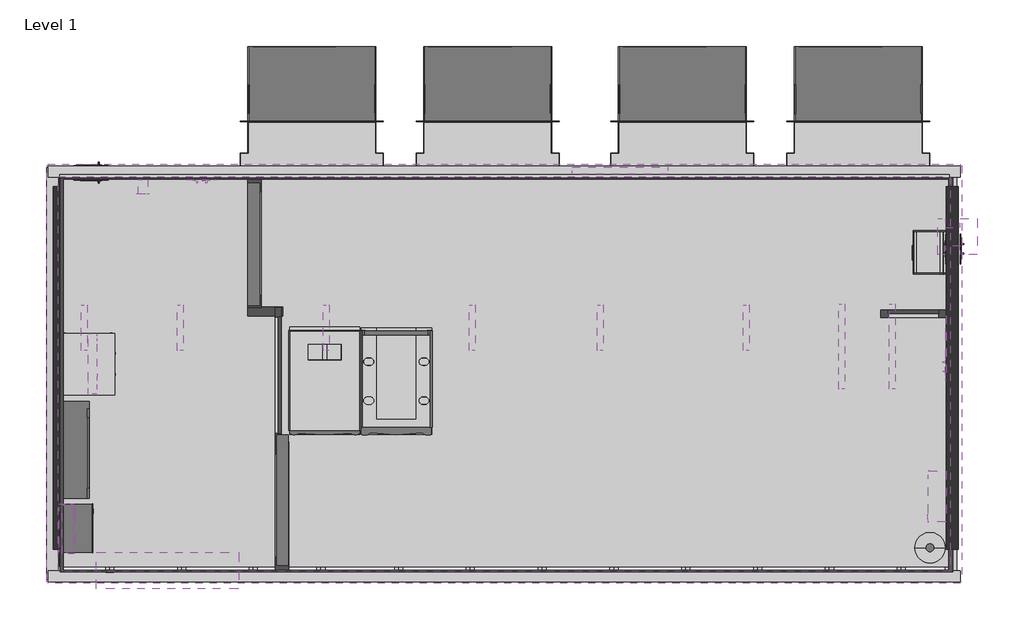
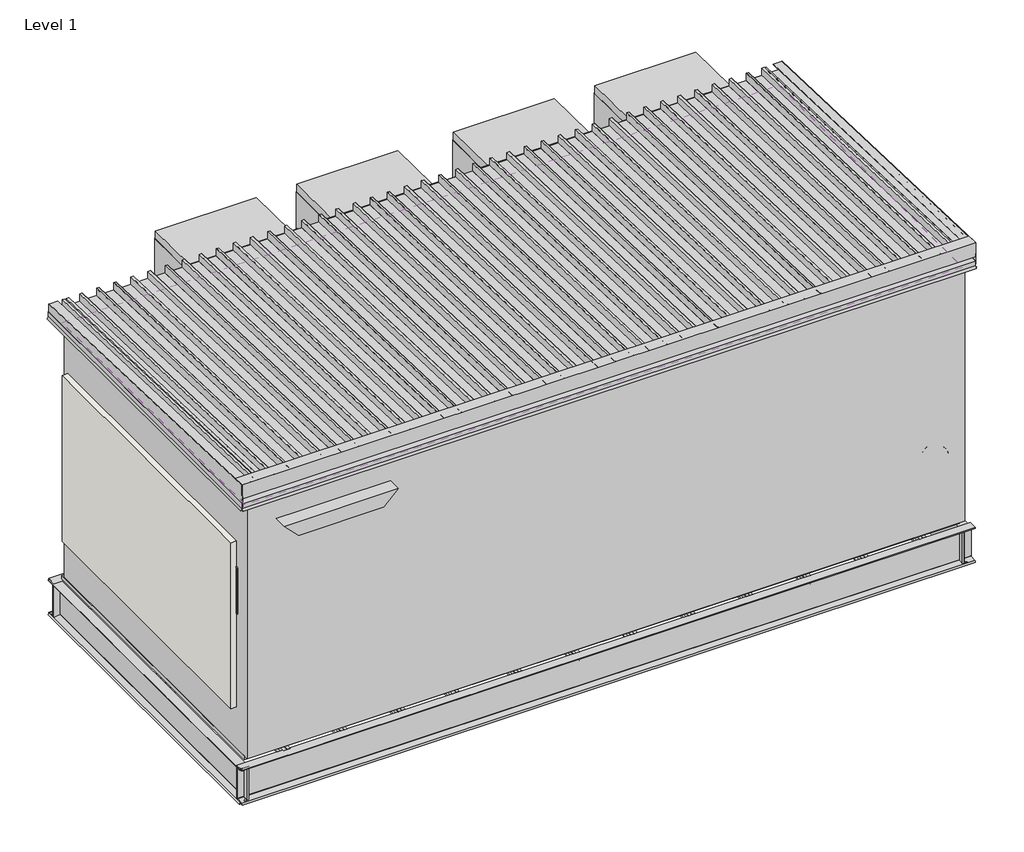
# One storey, incomplete: 22 beams, 20 proxies, 8 cable carrier fittings, 4 walls, 2 plates, 1 alarm, 1 covering.
"""IFC4 building model written with IfcOpenShell, lengths in millimetres."""

from ifc_helpers import new_model, si_unit, frame, origin, place, context, project, spatial, polyline, outline, extrude, transform, mapped, element, save
from components import cylinder_1_cylinder_1_a0b04ee7, beam_a0ba30f1, beam_8cc5f2e6, base_cover_40kw_base_cover_40kw_a4d79b44, c381x94_58a36d87, c381x94_26746bf0, c381x96_e7f4985d, c381x96_1e17e779, foot_stand_and_door_shade_foot_stand_and_door_shade_9e24d134, i_channel_153x157_b665bd47, i_channel_2c100x6_7_e83eee92, i_channel_2c100x6_7_0b379793, roof_40kw_roof_40kw_a1198938, roof_40kw_roof_40kw_301b227a, electrical_equipment_6561f704, electrical_equipment_92dd933f, electrical_equipment_2ad6ca1a, electrical_equipment_14537a31, electrical_equipment_7de670ac, electrical_equipment_2ad26752, electrical_equipment_ff54cd8f, proxy_120v_outlet_120v_outlet_0315f664, proxy_480v_208v_dbe15ef4, cp_100_control_panel_810ad4ae, climate_control_climate_control_2b801170, e2m_access_control_panel_011aee9f, fire_alarm_control_panel_67536681, generator_annunciator_panel_2783cb85, i_line_power_distribution_panel_board_enclosure_cbae9e6e, type_1_3abf962e, type_1_044964e1, type_1_7764bf48, hanger_cabletray_hanger_cabletray_1b30f011, hanger_cabletray_hanger_cabletray_7256ed64, system_panel_glazed_b8472da5, system_panel_glazed_d26497f8

model = new_model("IFC4")

# Units and contexts
model_context = context("Model", 3, world=origin())
ifc_project = project(units=[si_unit("LENGTHUNIT", "METRE", prefix="MILLI")], contexts=[model_context])

# Site, building, storey
site = spatial("IfcSite", under=ifc_project)
building = spatial("IfcBuilding", under=site)
storey = spatial("IfcBuildingStorey", under=building, Name="Level 1", Elevation=0.0)

# Alarm
placement = place(None, origin())
cylinder_1_cylinder_1_shape = cylinder_1_cylinder_1_a0b04ee7(model_context)
element("IfcAlarm", 1, ObjectType="Cylinder-1 : Cylinder-1", at=placement, inside=storey, context=model_context, shape_type="MappedRepresentation", body=[
    mapped(cylinder_1_cylinder_1_shape, transform((3146.0911977, -3207.6424008, 424.0), x_axis=(1.0, 0.0, 0.0), y_axis=(0.0, 1.0, 0.0), z_axis=(0.0, 0.0, 1.0))),
])

# Beams
beam_shape = beam_a0ba30f1(model_context)
element("IfcBeam", 2, ObjectType="Insulation_config1 : Insulation_config1", at=placement, inside=storey, context=model_context, shape_type="MappedRepresentation", body=[
    mapped(beam_shape, transform((-4870.8033783, -3270.5466438, 0.0), x_axis=(1.0, 0.0, 0.0), y_axis=(0.0, 1.0, 0.0), z_axis=(0.0, 0.0, 1.0))),
])
beam_2_shape = beam_8cc5f2e6(model_context)
element("IfcBeam", 3, ObjectType="Inside partition and doors_Config2_Separation : Inside partition and doors_Config2_Separation", at=placement, inside=storey, context=model_context, shape_type="MappedRepresentation", body=[
    mapped(beam_2_shape, transform((-5105.8129489, -3562.0468833, 0.0), x_axis=(1.0, 0.0, 0.0), y_axis=(0.0, 1.0, 0.0), z_axis=(0.0, 0.0, 1.0))),
])
base_cover_40kw_base_cover_40kw_shape = base_cover_40kw_base_cover_40kw_a4d79b44(model_context)
element("IfcBeam", 4, ObjectType="Base_cover_40kW : Base_cover_40kW", at=placement, inside=storey, context=model_context, shape_type="MappedRepresentation", body=[
    mapped(base_cover_40kw_base_cover_40kw_shape, transform((-410.1108023, -1725.0452169, 0.0), x_axis=(1.0, 0.0, 0.0), y_axis=(0.0, 1.0, 0.0), z_axis=(0.0, 0.0, 1.0))),
])
c381x94_shape = c381x94_58a36d87(model_context)
element("IfcBeam", 5, ObjectType="M_C-Channel_305x105 : C381x94", at=placement, inside=storey, context=model_context, shape_type="MappedRepresentation", body=[
    mapped(c381x94_shape, transform((1621.9411968, -94.1542185, 190.5), x_axis=(-1.0, 0.0, 0.0), y_axis=(0.0, -1.0, 0.0), z_axis=(0.0, 0.0, 1.0))),
])
c381x94_2_shape = c381x94_26746bf0(model_context)
element("IfcBeam", 6, ObjectType="M_C-Channel_305x105 : C381x94", at=placement, inside=storey, context=model_context, shape_type="MappedRepresentation", body=[
    mapped(c381x94_2_shape, transform((4579.3711968, -3412.6642154, 190.5), x_axis=(-1.0, 0.0, 0.0), y_axis=(0.0, -1.0, 0.0), z_axis=(0.0, 0.0, 1.0))),
])
c381x96_shape = c381x96_e7f4985d(model_context)
element("IfcBeam", 7, ObjectType="M_C-Channel_305x105 : C381x96", at=placement, inside=storey, context=model_context, shape_type="MappedRepresentation", body=[
    mapped(c381x96_shape, transform((-4155.0018007, 50.6370472, 189.0), x_axis=(0.0, -1.0, 0.0), y_axis=(1.0, 0.0, 0.0), z_axis=(0.0, 0.0, 1.0))),
])
c381x96_2_shape = c381x96_1e17e779(model_context)
element("IfcBeam", 8, ObjectType="M_C-Channel_305x105 : C381x96", at=placement, inside=storey, context=model_context, shape_type="MappedRepresentation", body=[
    mapped(c381x96_2_shape, transform((3292.1211953, 50.6370472, 189.0), x_axis=(0.0, -1.0, 0.0), y_axis=(1.0, 0.0, 0.0), z_axis=(0.0, 0.0, 1.0))),
])
foot_stand_and_door_shade_foot_stand_and_door_shade_shape = foot_stand_and_door_shade_foot_stand_and_door_shade_9e24d134(model_context)
element("IfcBeam", 9, ObjectType="Foot Stand and Door shade : Foot Stand and Door shade", at=placement, inside=storey, context=model_context, shape_type="MappedRepresentation", body=[
    mapped(foot_stand_and_door_shade_foot_stand_and_door_shade_shape, transform((-3878.9508023, -3802.0092181, 0.0), x_axis=(1.0, 0.0, 0.0), y_axis=(0.0, 1.0, 0.0), z_axis=(0.0, 0.0, 1.0))),
])
i_channel_153x157_shape = i_channel_153x157_b665bd47(model_context)
element("IfcBeam", 10, ObjectType="I Channel : 153x157", at=placement, inside=storey, context=model_context, shape_type="MappedRepresentation", body=[
    mapped(i_channel_153x157_shape, transform((-1017.7885357, -1750.0452169, 202.5), x_axis=(1.0, 0.0, 0.0), y_axis=(0.0, 1.0, 0.0), z_axis=(0.0, 0.0, 1.0))),
])
i_channel_2c100x6_7_shape = i_channel_2c100x6_7_e83eee92(model_context)
element("IfcBeam", 11, ObjectType="I Channel : 2C100X6.7", at=placement, inside=storey, context=model_context, shape_type="MappedRepresentation", body=[
    mapped(i_channel_2c100x6_7_shape, transform((2906.0911977, -803.3983096, 332.5), x_axis=(0.0, -1.0, 0.0), y_axis=(1.0, 0.0, 0.0), z_axis=(0.0, 0.0, 1.0))),
])
element("IfcBeam", 12, ObjectType="I Channel : 2C100X6.7", at=placement, inside=storey, context=model_context, shape_type="MappedRepresentation", body=[
    mapped(i_channel_2c100x6_7_shape, transform((2306.0911977, -803.3983096, 332.5), x_axis=(0.0, -1.0, 0.0), y_axis=(1.0, 0.0, 0.0), z_axis=(0.0, 0.0, 1.0))),
])
element("IfcBeam", 13, ObjectType="I Channel : 2C100X6.7", at=placement, inside=storey, context=model_context, shape_type="MappedRepresentation", body=[
    mapped(i_channel_2c100x6_7_shape, transform((1706.0911977, -803.3983096, 332.5), x_axis=(0.0, -1.0, 0.0), y_axis=(1.0, 0.0, 0.0), z_axis=(0.0, 0.0, 1.0))),
])
element("IfcBeam", 14, ObjectType="I Channel : 2C100X6.7", at=placement, inside=storey, context=model_context, shape_type="MappedRepresentation", body=[
    mapped(i_channel_2c100x6_7_shape, transform((-1942.5318032, -803.3983096, 332.5), x_axis=(0.0, -1.0, 0.0), y_axis=(1.0, 0.0, 0.0), z_axis=(0.0, 0.0, 1.0))),
])
element("IfcBeam", 15, ObjectType="I Channel : 2C100X6.7", at=placement, inside=storey, context=model_context, shape_type="MappedRepresentation", body=[
    mapped(i_channel_2c100x6_7_shape, transform((1106.0911977, -803.3983096, 332.5), x_axis=(0.0, -1.0, 0.0), y_axis=(1.0, 0.0, 0.0), z_axis=(0.0, 0.0, 1.0))),
])
element("IfcBeam", 16, ObjectType="I Channel : 2C100X6.7", at=placement, inside=storey, context=model_context, shape_type="MappedRepresentation", body=[
    mapped(i_channel_2c100x6_7_shape, transform((-93.9088023, -803.3983096, 332.5), x_axis=(0.0, -1.0, 0.0), y_axis=(1.0, 0.0, 0.0), z_axis=(0.0, 0.0, 1.0))),
])
element("IfcBeam", 17, ObjectType="I Channel : 2C100X6.7", at=placement, inside=storey, context=model_context, shape_type="MappedRepresentation", body=[
    mapped(i_channel_2c100x6_7_shape, transform((-693.9088023, -803.3983096, 332.5), x_axis=(0.0, -1.0, 0.0), y_axis=(1.0, 0.0, 0.0), z_axis=(0.0, 0.0, 1.0))),
])
element("IfcBeam", 18, ObjectType="I Channel : 2C100X6.7", at=placement, inside=storey, context=model_context, shape_type="MappedRepresentation", body=[
    mapped(i_channel_2c100x6_7_shape, transform((-1293.9088023, -803.3983096, 332.5), x_axis=(0.0, -1.0, 0.0), y_axis=(1.0, 0.0, 0.0), z_axis=(0.0, 0.0, 1.0))),
])
element("IfcBeam", 19, ObjectType="I Channel : 2C100X6.7", at=placement, inside=storey, context=model_context, shape_type="MappedRepresentation", body=[
    mapped(i_channel_2c100x6_7_shape, transform((-3107.1108023, -803.3983096, 332.5), x_axis=(0.0, -1.0, 0.0), y_axis=(1.0, 0.0, 0.0), z_axis=(0.0, 0.0, 1.0))),
])
element("IfcBeam", 20, ObjectType="I Channel : 2C100X6.7", at=placement, inside=storey, context=model_context, shape_type="MappedRepresentation", body=[
    mapped(i_channel_2c100x6_7_shape, transform((-2507.1108023, -803.3983096, 332.5), x_axis=(0.0, -1.0, 0.0), y_axis=(1.0, 0.0, 0.0), z_axis=(0.0, 0.0, 1.0))),
])
element("IfcBeam", 21, ObjectType="I Channel : 2C100X6.7", at=placement, inside=storey, context=model_context, shape_type="MappedRepresentation", body=[
    mapped(i_channel_2c100x6_7_shape, transform((506.0911977, -803.3983096, 332.5), x_axis=(0.0, -1.0, 0.0), y_axis=(1.0, 0.0, 0.0), z_axis=(0.0, 0.0, 1.0))),
])
i_channel_2c100x6_7_2_shape = i_channel_2c100x6_7_0b379793(model_context)
element("IfcBeam", 22, ObjectType="I Channel : 2C100X6.7", at=placement, inside=storey, context=model_context, shape_type="MappedRepresentation", body=[
    mapped(i_channel_2c100x6_7_2_shape, transform((-3707.1108023, -810.2163102, 332.5), x_axis=(0.0, -1.0, 0.0), y_axis=(1.0, 0.0, 0.0), z_axis=(0.0, 0.0, 1.0))),
])
roof_40kw_roof_40kw_shape = roof_40kw_roof_40kw_a1198938(model_context)
roof_40kw_roof_40kw_2_shape = roof_40kw_roof_40kw_301b227a(model_context)
element("IfcBeam", 23, ObjectType="Roof_40kW : Roof_40kW", at=placement, inside=storey, context=model_context, shape_type="MappedRepresentation", body=[
    mapped(roof_40kw_roof_40kw_shape, transform((-412.1108023, -3478.4989779, 0.0), x_axis=(1.0, 0.0, 0.0), y_axis=(0.0, 1.0, 0.0), z_axis=(0.0, 0.0, 1.0))),
    mapped(roof_40kw_roof_40kw_2_shape, transform((-412.1108023, -3478.4989779, 0.0), x_axis=(1.0, 0.0, 0.0), y_axis=(0.0, 1.0, 0.0), z_axis=(0.0, 0.0, 1.0))),
])

# Proxies
electrical_equipment_shape = electrical_equipment_6561f704(model_context)
electrical_equipment_2_shape = electrical_equipment_92dd933f(model_context)
electrical_equipment_3_shape = electrical_equipment_2ad6ca1a(model_context)
element("IfcBuildingElementProxy", 24, Name="TRF2 - 480V-208Vor 120V_ Step_down_transformer_BIM_Model : TRF2 - 480V-208Vor 120V_ Step_down_transformer_BIM_Model", ObjectType="TRF2 - 480V-208Vor 120V_ Step_down_transformer_BIM_Model : TRF2 - 480V-208Vor 120V_ Step_down_transformer_BIM_Model", at=placement, inside=storey, context=model_context, shape_type="MappedRepresentation", body=[
    mapped(electrical_equipment_shape, transform((-3884.4013434, -1671.2133342, 424.0), x_axis=(0.0, 1.0, 0.0), y_axis=(-1.0, 0.0, 0.0), z_axis=(0.0, 0.0, 1.0))),
    mapped(electrical_equipment_2_shape, transform((-3884.4013434, -1671.2133342, 424.0), x_axis=(0.0, 1.0, 0.0), y_axis=(-1.0, 0.0, 0.0), z_axis=(0.0, 0.0, 1.0))),
    mapped(electrical_equipment_3_shape, transform((-3884.4013434, -1671.2133342, 424.0), x_axis=(0.0, 1.0, 0.0), y_axis=(-1.0, 0.0, 0.0), z_axis=(0.0, 0.0, 1.0))),
])
electrical_equipment_4_shape = electrical_equipment_14537a31(model_context)
element("IfcBuildingElementProxy", 25, Name="UPS_Symmetra_PX_40_Schneider_Electric_10-40kVA_208V_BIM_Model : SY40K40F", ObjectType="UPS_Symmetra_PX_40_Schneider_Electric_10-40kVA_208V_BIM_Model : SY40K40F", at=placement, inside=storey, context=model_context, shape_type="MappedRepresentation", body=[
    mapped(electrical_equipment_4_shape, transform((-1911.1555951, -1811.453713, 424.0), x_axis=(1.0, 0.0, 0.0), y_axis=(0.0, 1.0, 0.0), z_axis=(0.0, 0.0, 1.0))),
])
electrical_equipment_5_shape = electrical_equipment_7de670ac(model_context)
element("IfcBuildingElementProxy", 26, Name="Distribution_Sockets : Distribution_Sockets", ObjectType="Distribution_Sockets : Distribution_Sockets", at=placement, inside=storey, context=model_context, shape_type="MappedRepresentation", body=[
    mapped(electrical_equipment_5_shape, transform((3340.5944046, -1466.0452341, 2991.0), x_axis=(0.0, 1.0, 0.0), y_axis=(-1.0, 0.0, 0.0), z_axis=(0.0, 0.0, 1.0))),
])
electrical_equipment_6_shape = electrical_equipment_2ad26752(model_context)
element("IfcBuildingElementProxy", 27, Name="Distribution_Socket_4_rotated : Distribution_Socket_4_rotated", ObjectType="Distribution_Socket_4_rotated : Distribution_Socket_4_rotated", at=placement, inside=storey, context=model_context, shape_type="MappedRepresentation", body=[
    mapped(electrical_equipment_6_shape, transform((-3865.1108023, -72.0452169, 749.3801703), x_axis=(1.0, 0.0, 0.0), y_axis=(0.0, 1.0, 0.0), z_axis=(0.0, 0.0, 1.0))),
])
electrical_equipment_7_shape = electrical_equipment_ff54cd8f(model_context)
element("IfcBuildingElementProxy", 28, Name="Distribution_Socket_Single_rotated : Distribution_Socket_Single_rotated", ObjectType="Distribution_Socket_Single_rotated : Distribution_Socket_Single_rotated", at=placement, inside=storey, context=model_context, shape_type="MappedRepresentation", body=[
    mapped(electrical_equipment_7_shape, transform((3340.0944046, -708.5205494, 573.2220356), x_axis=(0.0, 1.0, 0.0), y_axis=(-1.0, 0.0, 0.0), z_axis=(0.0, 0.0, 1.0))),
])
element("IfcBuildingElementProxy", 29, Name="Distribution_Socket_Single_rotated : Distribution_Socket_Single_rotated", ObjectType="Distribution_Socket_Single_rotated : Distribution_Socket_Single_rotated", at=placement, inside=storey, context=model_context, shape_type="MappedRepresentation", body=[
    mapped(electrical_equipment_7_shape, transform((-2938.664158, -71.6879528, 3101.0), x_axis=(1.0, 0.0, 0.0), y_axis=(0.0, 1.0, 0.0), z_axis=(0.0, 0.0, 1.0))),
])
proxy_120v_outlet_120v_outlet_shape = proxy_120v_outlet_120v_outlet_0315f664(model_context)
element("IfcBuildingElementProxy", 30, Name="120V Outlet : 120V Outlet", ObjectType="120V Outlet : 120V Outlet", at=placement, inside=storey, context=model_context, shape_type="MappedRepresentation", body=[
    mapped(proxy_120v_outlet_120v_outlet_shape, transform((-3430.3108023, -72.2452438, -0.0755609), x_axis=(-1.0, 0.0, 0.0), y_axis=(0.0, -1.0, 0.0), z_axis=(0.0, 0.0, 1.0))),
])
proxy_480v_208v_shape = proxy_480v_208v_dbe15ef4(model_context)
element("IfcBuildingElementProxy", 31, Name="PD40G6FK1-M_-_InfraStruxure_PDU_40kW,_480V_In,_208V_Out_with_MBP_BIM_MODEL : 480V/208V", ObjectType="PD40G6FK1-M_-_InfraStruxure_PDU_40kW,_480V_In,_208V_Out_with_MBP_BIM_MODEL : 480V/208V", at=placement, inside=storey, context=model_context, shape_type="MappedRepresentation", body=[
    mapped(proxy_480v_208v_shape, transform((-1312.6555951, -1811.7537194, 424.0), x_axis=(1.0, 0.0, 0.0), y_axis=(0.0, 1.0, 0.0), z_axis=(0.0, 0.0, 1.0))),
])
cp_100_control_panel_shape = cp_100_control_panel_810ad4ae(model_context)
element("IfcBuildingElementProxy", 32, Name="CP-100_Control_Panel_Wallmount_BIM_Model : CP-100 Control panel", ObjectType="CP-100_Control_Panel_Wallmount_BIM_Model : CP-100 Control panel", at=placement, inside=storey, context=model_context, shape_type="MappedRepresentation", body=[
    mapped(cp_100_control_panel_shape, transform((-4172.9373429, -2920.0959614, 66.0), x_axis=(0.0, -1.0, 0.0), y_axis=(1.0, 0.0, 0.0), z_axis=(0.0, 0.0, 1.0))),
])
climate_control_climate_control_shape = climate_control_climate_control_2b801170(model_context)
element("IfcBuildingElementProxy", 33, Name="Climate Control : Climate Control", ObjectType="Climate Control : Climate Control", at=placement, inside=storey, context=model_context, shape_type="MappedRepresentation", body=[
    mapped(climate_control_climate_control_shape, transform((3321.0745384, -757.0452169, 2650.0), x_axis=(0.0, 1.0000000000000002, 0.0), y_axis=(-1.0000000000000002, 0.0, 0.0), z_axis=(0.0, 0.0, 1.0))),
])
e2m_access_control_panel_shape = e2m_access_control_panel_011aee9f(model_context)
element("IfcBuildingElementProxy", 34, Name="E2M_Access_Control_Panel_Wallmount_BIM_Model : E2M-Access Control Panel", ObjectType="E2M_Access_Control_Panel_Wallmount_BIM_Model : E2M-Access Control Panel", at=placement, inside=storey, context=model_context, shape_type="MappedRepresentation", body=[
    mapped(e2m_access_control_panel_shape, transform((-4178.6108023, -3045.0959614, 822.0354149), x_axis=(0.0, -1.0, 0.0), y_axis=(1.0, 0.0, 0.0), z_axis=(0.0, 0.0, 1.0))),
])
fire_alarm_control_panel_shape = fire_alarm_control_panel_67536681(model_context)
element("IfcBuildingElementProxy", 35, Name="Fire_Alarm_Control_Panel_Wallmount_BIM_Model : Fire Alarm Control Panel", ObjectType="Fire_Alarm_Control_Panel_Wallmount_BIM_Model : Fire Alarm Control Panel", at=placement, inside=storey, context=model_context, shape_type="MappedRepresentation", body=[
    mapped(fire_alarm_control_panel_shape, transform((3332.5944046, -2903.6153667, 1143.0), x_axis=(0.0, 1.0, 0.0), y_axis=(-1.0, 0.0, 0.0), z_axis=(0.0, 0.0, 1.0))),
])
generator_annunciator_panel_shape = generator_annunciator_panel_2783cb85(model_context)
element("IfcBuildingElementProxy", 36, Name="Generator_Annunciator_Panel_Wallmount_BIM_Model : Generator Annunciator Panel", ObjectType="Generator_Annunciator_Panel_Wallmount_BIM_Model : Generator Annunciator Panel", at=placement, inside=storey, context=model_context, shape_type="MappedRepresentation", body=[
    mapped(generator_annunciator_panel_shape, transform((-4177.4390101, -2928.6822148, 836.0), x_axis=(0.0, -1.0, 0.0), y_axis=(1.0, 0.0, 0.0), z_axis=(0.0, 0.0, 1.0))),
])
i_line_power_distribution_panel_board_enclosure_shape = i_line_power_distribution_panel_board_enclosure_cbae9e6e(model_context)
element("IfcBuildingElementProxy", 37, Name="I-Line_Power_Distribution_Panel_Board_Enclosure_MDP-100_BIM_Model : I-Line Power Distribution Panel Board Enclosure", ObjectType="I-Line_Power_Distribution_Panel_Board_Enclosure_MDP-100_BIM_Model : I-Line Power Distribution Panel Board Enclosure", at=placement, inside=storey, context=model_context, shape_type="MappedRepresentation", body=[
    mapped(i_line_power_distribution_panel_board_enclosure_shape, transform((-3985.0258413, -2390.0303048, 424.0), x_axis=(0.0, 1.0000000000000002, 0.0), y_axis=(-1.0000000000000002, 0.0, 0.0), z_axis=(0.0, 0.0, 1.0))),
])
type_1_shape = type_1_3abf962e(model_context)
element("IfcBuildingElementProxy", 38, Name="UE001 - Carel_Humidifier_Wallmount_BIM_Model : Type 1", ObjectType="UE001 - Carel_Humidifier_Wallmount_BIM_Model : Type 1", at=placement, inside=storey, context=model_context, shape_type="MappedRepresentation", body=[
    mapped(type_1_shape, transform((3332.5944046, -736.992523, 376.2875), x_axis=(0.0, 1.0, 0.0), y_axis=(-1.0, 0.0, 0.0), z_axis=(0.0, 0.0, 1.0))),
])
type_1_2_shape = type_1_044964e1(model_context)
element("IfcBuildingElementProxy", 39, Name="PDB-200 - 208V_OR_120V_Distribution_Panel_Wallmount_BIM_Model : Type 1", ObjectType="PDB-200 - 208V_OR_120V_Distribution_Panel_Wallmount_BIM_Model : Type 1", at=placement, inside=storey, context=model_context, shape_type="MappedRepresentation", body=[
    mapped(type_1_2_shape, transform((-4177.4390101, -1668.3181642, 389.7698381), x_axis=(0.0, -1.0, 0.0), y_axis=(1.0, 0.0, 0.0), z_axis=(0.0, 0.0, 1.0))),
])
type_1_3_shape = type_1_7764bf48(model_context)
element("IfcBuildingElementProxy", 40, Name="Uniflair_WMF0661_with_wallmountframe_and_Floorstand_BIM_Model : Type 1", ObjectType="Uniflair_WMF0661_with_wallmountframe_and_Floorstand_BIM_Model : Type 1", at=placement, inside=storey, context=model_context, shape_type="MappedRepresentation", body=[
    mapped(type_1_3_shape, transform((-2018.4838032, -57.789547, 0.0), x_axis=(1.0, 0.0, 0.0), y_axis=(0.0, 1.0, 0.0), z_axis=(0.0, 0.0, 1.0))),
])
element("IfcBuildingElementProxy", 41, Name="Uniflair_WMF0661_with_wallmountframe_and_Floorstand_BIM_Model : Type 1", ObjectType="Uniflair_WMF0661_with_wallmountframe_and_Floorstand_BIM_Model : Type 1", at=placement, inside=storey, context=model_context, shape_type="MappedRepresentation", body=[
    mapped(type_1_3_shape, transform((-550.4838032, -57.789547, 0.0), x_axis=(1.0, 0.0, 0.0), y_axis=(0.0, 1.0, 0.0), z_axis=(0.0, 0.0, 1.0))),
])
element("IfcBuildingElementProxy", 42, Name="Uniflair_WMF0661_with_wallmountframe_and_Floorstand_BIM_Model : Type 1", ObjectType="Uniflair_WMF0661_with_wallmountframe_and_Floorstand_BIM_Model : Type 1", at=placement, inside=storey, context=model_context, shape_type="MappedRepresentation", body=[
    mapped(type_1_3_shape, transform((1077.5161968, -57.789547, 0.0), x_axis=(1.0, 0.0, 0.0), y_axis=(0.0, 1.0, 0.0), z_axis=(0.0, 0.0, 1.0))),
])
element("IfcBuildingElementProxy", 43, Name="Uniflair_WMF0661_with_wallmountframe_and_Floorstand_BIM_Model : Type 1", ObjectType="Uniflair_WMF0661_with_wallmountframe_and_Floorstand_BIM_Model : Type 1", at=placement, inside=storey, context=model_context, shape_type="MappedRepresentation", body=[
    mapped(type_1_3_shape, transform((2546.5161968, -57.789547, 0.0), x_axis=(1.0, 0.0, 0.0), y_axis=(0.0, 1.0, 0.0), z_axis=(0.0, 0.0, 1.0))),
])

# Cable carrier fittings
hanger_cabletray_hanger_cabletray_shape = hanger_cabletray_hanger_cabletray_1b30f011(model_context)
element("IfcCableCarrierFitting", 44, ObjectType="Hanger_CableTray : Hanger_CableTray", at=placement, inside=storey, context=model_context, shape_type="MappedRepresentation", body=[
    mapped(hanger_cabletray_hanger_cabletray_shape, transform((-3919.5012088, -1203.2452169, 2832.0), x_axis=(0.0, 1.0, 0.0), y_axis=(-1.0, 0.0, 0.0), z_axis=(0.0, 0.0, 1.0))),
])
element("IfcCableCarrierFitting", 45, ObjectType="Hanger_CableTray : Hanger_CableTray", at=placement, inside=storey, context=model_context, shape_type="MappedRepresentation", body=[
    mapped(hanger_cabletray_hanger_cabletray_shape, transform((-3117.8137088, -1203.2452169, 2832.0), x_axis=(0.0, 1.0, 0.0), y_axis=(-1.0, 0.0, 0.0), z_axis=(0.0, 0.0, 1.0))),
])
element("IfcCableCarrierFitting", 46, ObjectType="Hanger_CableTray : Hanger_CableTray", at=placement, inside=storey, context=model_context, shape_type="MappedRepresentation", body=[
    mapped(hanger_cabletray_hanger_cabletray_shape, transform((-1898.6137088, -1203.2452169, 2832.0), x_axis=(0.0, 1.0, 0.0), y_axis=(-1.0, 0.0, 0.0), z_axis=(0.0, 0.0, 1.0))),
])
element("IfcCableCarrierFitting", 47, ObjectType="Hanger_CableTray : Hanger_CableTray", at=placement, inside=storey, context=model_context, shape_type="MappedRepresentation", body=[
    mapped(hanger_cabletray_hanger_cabletray_shape, transform((-679.4137088, -1203.2452169, 2832.0), x_axis=(0.0, 1.0, 0.0), y_axis=(-1.0, 0.0, 0.0), z_axis=(0.0, 0.0, 1.0))),
])
element("IfcCableCarrierFitting", 48, ObjectType="Hanger_CableTray : Hanger_CableTray", at=placement, inside=storey, context=model_context, shape_type="MappedRepresentation", body=[
    mapped(hanger_cabletray_hanger_cabletray_shape, transform((391.2862941, -1203.2452169, 2832.0), x_axis=(0.0, 1.0, 0.0), y_axis=(-1.0, 0.0, 0.0), z_axis=(0.0, 0.0, 1.0))),
])
element("IfcCableCarrierFitting", 49, ObjectType="Hanger_CableTray : Hanger_CableTray", at=placement, inside=storey, context=model_context, shape_type="MappedRepresentation", body=[
    mapped(hanger_cabletray_hanger_cabletray_shape, transform((1610.4862941, -1203.2452169, 2832.0), x_axis=(0.0, 1.0, 0.0), y_axis=(-1.0, 0.0, 0.0), z_axis=(0.0, 0.0, 1.0))),
])
hanger_cabletray_hanger_cabletray_2_shape = hanger_cabletray_hanger_cabletray_7256ed64(model_context)
element("IfcCableCarrierFitting", 50, ObjectType="Hanger_CableTray : Hanger_CableTray", at=placement, inside=storey, context=model_context, shape_type="MappedRepresentation", body=[
    mapped(hanger_cabletray_hanger_cabletray_2_shape, transform((2829.6862926, -1523.2452169, 2832.0), x_axis=(0.0, 1.0, 0.0), y_axis=(-1.0, 0.0, 0.0), z_axis=(0.0, 0.0, 1.0))),
])
element("IfcCableCarrierFitting", 51, ObjectType="Hanger_CableTray : Hanger_CableTray", at=placement, inside=storey, context=model_context, shape_type="MappedRepresentation", body=[
    mapped(hanger_cabletray_hanger_cabletray_2_shape, transform((2409.6862926, -1523.2452169, 2832.0), x_axis=(0.0, 1.0, 0.0), y_axis=(-1.0, 0.0, 0.0), z_axis=(0.0, 0.0, 1.0))),
])

# Covering
element("IfcCovering", 52, ObjectType="GWB on Mtl Stud", at=placement, inside=storey, context=model_context, shape_type="SweptSolid", body=[
    extrude(outline(polyline([(3313.8444046, -104.4452169), (3313.8444046, -3406.1092181), (-4137.4390101, -3406.1092181), (-4137.4390101, -104.4452169), (3313.8444046, -104.4452169)])), frame((0.0, 0.0, 3219.0), z_axis=(0.0, 0.0, 1.0), x_axis=(1.0, 0.0, 0.0)), (0.0, 0.0, 1.0), 107.95),
])

# Plates
system_panel_glazed_shape = system_panel_glazed_b8472da5(model_context)
element("IfcPlate", 53, ObjectType="System Panel : Glazed", at=placement, inside=storey, context=model_context, shape_type="MappedRepresentation", body=[
    mapped(system_panel_glazed_shape, transform((-2364.1555954, -2809.3552876, 582.4721745), x_axis=(0.0, -1.0, 0.0), y_axis=(1.0, 0.0, 0.0), z_axis=(0.0, 0.0, 1.0))),
])
system_panel_glazed_2_shape = system_panel_glazed_d26497f8(model_context)
element("IfcPlate", 54, ObjectType="System Panel : Glazed", at=placement, inside=storey, context=model_context, shape_type="MappedRepresentation", body=[
    mapped(system_panel_glazed_2_shape, transform((-2605.4055954, -670.1045285, 424.0), x_axis=(0.0, -1.0, 0.0), y_axis=(1.0, 0.0, 0.0), z_axis=(0.0, 0.0, 1.0))),
])

# Walls
element("IfcWall", 55, ObjectType="Generic - 100mm 2", at=placement, inside=storey, context=model_context, shape_type="SweptSolid", body=[
    extrude(outline(polyline([(-4123.4390101, -185.5841094), (-4123.4390101, -3221.4685273), (-4181.4390101, -3221.4685273), (-4181.4390101, -185.5841094), (-4123.4390101, -185.5841094)])), frame((0.0, 0.0, 878.857313), z_axis=(0.0, 0.0, 1.0), x_axis=(1.0, 0.0, 0.0)), (0.0, 0.0, 1.0), 1824.0926969),
])
element("IfcWall", 56, ObjectType="Generic - 100mm 2", at=placement, inside=storey, context=model_context, shape_type="SweptSolid", body=[
    extrude(outline(polyline([(155.3457789, -26.5702707), (955.3457789, -26.5702707), (955.3457789, -84.5702707), (155.3457789, -84.5702707), (155.3457789, -26.5702707)])), frame((0.0, 0.0, 2656.9378237), z_axis=(0.0, 0.0, 1.0), x_axis=(1.0, 0.0, 0.0)), (0.0, 0.0, 1.0), 424.6595009),
])
element("IfcWall", 57, ObjectType="Generic - 200mm", at=placement, inside=storey, context=model_context, shape_type="SweptSolid", body=[
    extrude(outline(polyline([(3382.5944046, -185.5841094), (3382.5944046, -3221.4685273), (3282.5944046, -3221.4685273), (3282.5944046, -185.5841094), (3382.5944046, -185.5841094)])), frame((0.0, 0.0, 878.857313), z_axis=(0.0, 0.0, 1.0), x_axis=(1.0, 0.0, 0.0)), (0.0, 0.0, 1.0), 1696.2174867),
])
element("IfcWall", 58, ObjectType="Generic - 200mm", at=placement, inside=storey, context=model_context, shape_type="SweptSolid", body=[
    extrude(outline(polyline([(3382.5944046, -185.5841094), (3382.5944046, -3221.4685273), (3282.5944046, -3221.4685273), (3282.5944046, -185.5841094), (3382.5944046, -185.5841094)])), frame((0.0, 0.0, 471.1186283), z_axis=(0.0, 0.0, 1.0), x_axis=(1.0, 0.0, 0.0)), (0.0, 0.0, 1.0), 891.7638764),
])

save(model, "model.ifc")
